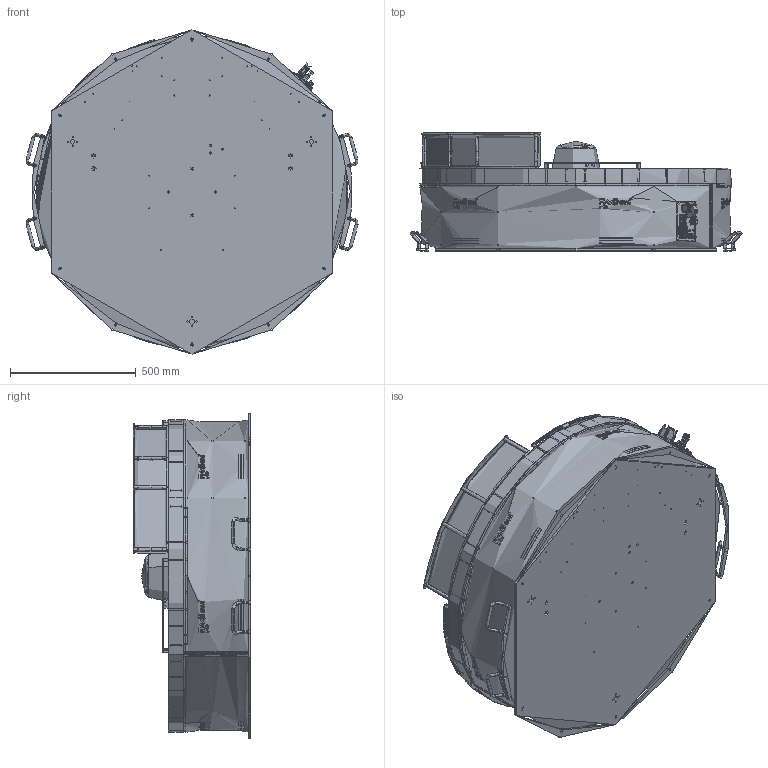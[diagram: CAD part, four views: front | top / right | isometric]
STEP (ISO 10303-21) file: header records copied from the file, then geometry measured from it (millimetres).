
FILE_DESCRIPTION (( 'STEP AP203' ), '1' );
FILE_NAME ('GM001405+quick emptying_2.STEP', '2025-10-23T08:07:46', ( '' ), ( '' ), 'SwSTEP 2.0', 'SolidWorks 2023', '' );
FILE_SCHEMA (( 'CONFIG_CONTROL_DESIGN' ));
Length unit declared in the file: millimetre
Products named in the file (52): PD005282; PD003263; CM002176; PD001119; CE000421; PD003261; PD000043; CE000276; CE000316; PD003259; PD008127; PD003272; PD005301; PD003274; PD006340; CE000007; PD003249; CM000008_002; PD003262; CM000015_001; CM000008_001; GM001405+quick emptying_2; CM000015; PD006333; PD003269; CE000420; CE000013; CM000008_004; CM000686_001; CM000686_002; PD003244; PD006339; GM001122; CM000015_002; CM000008_005; PD003220; PD003235; CE000039; CE000005; PD003234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
Assembly tree (81 placements, depth 3):
  GM001405+quick emptying_2
    CM000015  x2
      CM000015_001
      CM000015_002
    PD008127
    PD007250
    PD003221  x2
    PD003220
    PD003244
    PD003248  x2
    PD003249
    PD006333
    CM002176  x6
    PD001360_FB500
    CE000007
    CE000013  x2
    CE000005
    CM000008
      CM000008_001
      CM000008_003  x2
      CM000008_002
      CM000008_004
      CM000008_005
    CE000316
    CM000686
      CM000686_001
      CM000686_002
    CE000039
    CE000276
    CE000420
    CE000421
    PD003259  x2
    PD003261
    PD003235  x3
    PD006337  x3
    PD003267  x2
    PD000043  x4
    PD003263
    PD003272  x4
    PD003269
    PD001119  x2
    PD006339
    PD006340
    CM000001  x4
    PD003274
    PD003262
    PD003234  x4
    PD005282
    GM001122
      PD005301  x2
      PD005305
      PD005303
Bounding box: 1320.82 x 469 x 1290 mm (x, y, z)
Topology: 82 solids, 969 shells, 7893 faces, 23743 edges, 17156 vertices
Faces by surface type: plane 3898, cylinder 2268, bspline 1209, cone 430, torus 66, sphere 22
Entity records: 460603 total; most frequent: CARTESIAN_POINT 267020, ORIENTED_EDGE 38457, DIRECTION 34068, EDGE_CURVE 21790, VERTEX_POINT 15992, VECTOR 12662, LINE 12662, AXIS2_PLACEMENT_3D 10703
